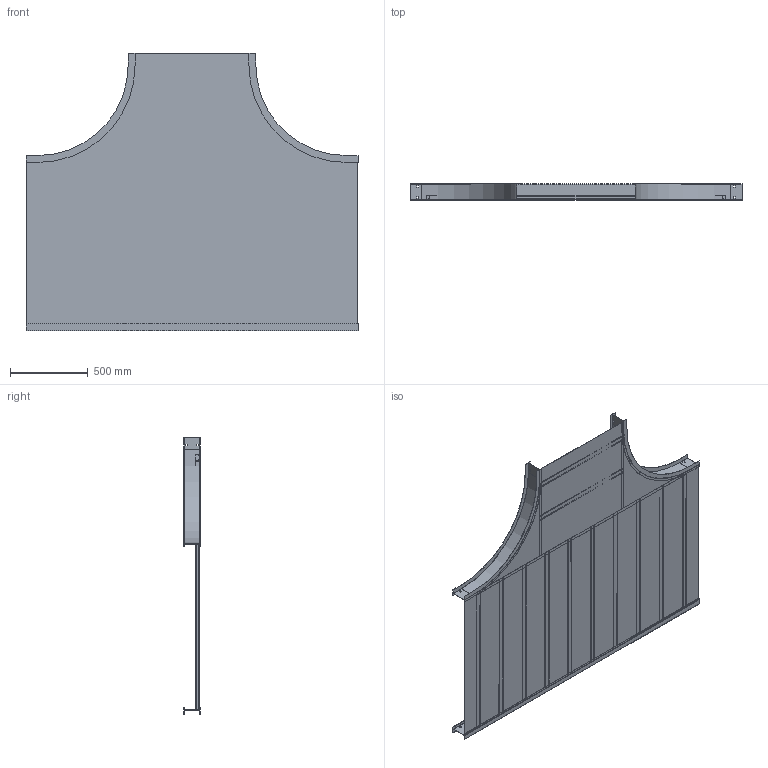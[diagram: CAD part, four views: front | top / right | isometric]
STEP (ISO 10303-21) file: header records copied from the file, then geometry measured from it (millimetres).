
FILE_DESCRIPTION((''),'2;1');
FILE_NAME('AHF44230SRT24_ASM','2010-02-10T',('erouzier'),(''),'PRO/ENGINEER BY PARAMETRIC TECHNOLOGY CORPORATION, 2008510','PRO/ENGINEER BY PARAMETRIC TECHNOLOGY CORPORATION, 2008510','');
FILE_SCHEMA(('CONFIG_CONTROL_DESIGN'));
Length unit declared in the file: inch
Products named in the file (18): CDS001810-4-90-24-I; CDS013845-4-84; CDS000495_GEN_AF9; CDS002159L42_AF8; CDS002159L42_AF9; CDS002159L42_AF10; CDS002159L42_AF11; CDS002159L42; CDS002159L42_AF12; CDS002159L42_AF13; CDS002159L42_AF14; CDS002159L42_AF15; CDS000495_GEN_AF10; CDS000495_GEN_AF11; CDS002159L30_AF2; CDS002159L30_AF3; CDS014192-42-24-30; AHF44230SRT24_ASM
Assembly tree (19 placements, depth 2):
  AHF44230SRT24_ASM
    CDS001810-4-90-24-I  x2
    CDS013845-4-84
    CDS000495_GEN_AF9
    CDS002159L42_AF8
    CDS002159L42_AF9
    CDS002159L42_AF10
    CDS002159L42_AF11
    CDS002159L42  x2
    CDS002159L42_AF12
    CDS002159L42_AF13
    CDS002159L42_AF14
    CDS002159L42_AF15
    CDS000495_GEN_AF10
    CDS000495_GEN_AF11
    CDS002159L30_AF2
    CDS002159L30_AF3
    CDS014192-42-24-30
Bounding box: 2137.41 x 106.43 x 1784.6 mm (x, y, z)
Volume: 6810966.5 mm3; surface area: 10859917.2 mm2
Topology: 19 solids, 19 shells, 516 faces, 1434 edges, 956 vertices
Faces by surface type: plane 370, cylinder 146
Entity records: 14611 total; most frequent: CARTESIAN_POINT 2531, ORIENTED_EDGE 2460, DIRECTION 2450, EDGE_CURVE 1230, VECTOR 972, LINE 972, VERTEX_POINT 820, AXIS2_PLACEMENT_3D 739
